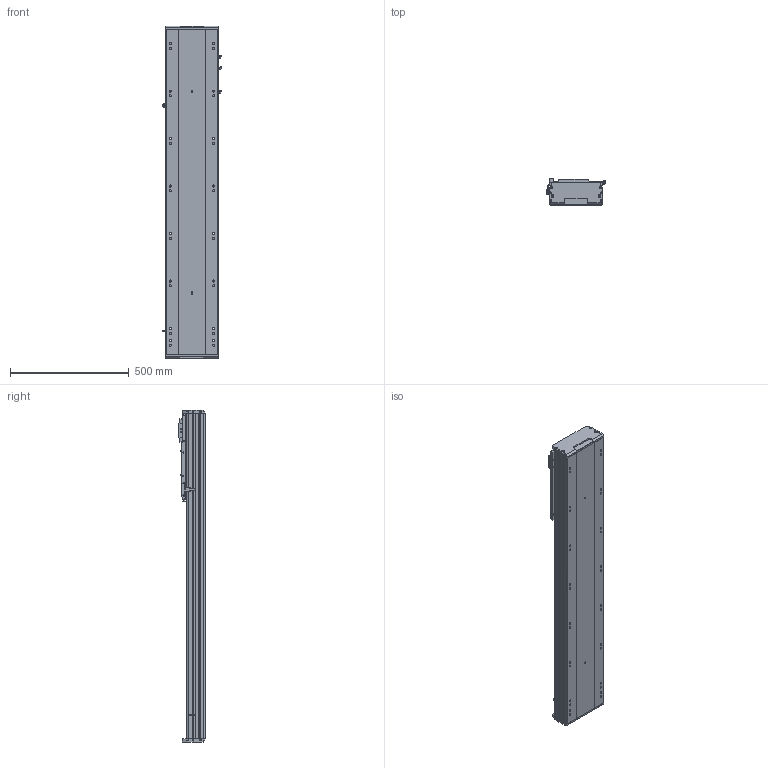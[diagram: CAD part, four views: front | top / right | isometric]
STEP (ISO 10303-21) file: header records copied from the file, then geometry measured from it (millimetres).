
FILE_DESCRIPTION (( 'STEP AP203' ), '1' );
FILE_NAME ('BEH22-A-M2-950-L1-¦Õ22-PCD100-M6-C3.STEP', '2022-06-21T05:35:47', ( 'CXY' ), ( 'BT' ), 'SwSTEP 2.0', 'SolidWorks 2016', '' );
FILE_SCHEMA (( 'CONFIG_CONTROL_DESIGN' ));
Products named in the file (12): PM-T65; BTH22-07-DZ; FS-01-10（10毫米）; FS-25-6.66-M2-H22K6; BEH22-07-PCD100-80-M6; 萇儂階踡輸; FS-02-BTH22; BEH22-04-01_L; BEH22-B-01-XX-2; BEH22-04-F; _G-M6; BEH22-A-M2-950-L1-耳22-PCD100-M6-C3
Assembly tree (18 placements, depth 3):
  BEH22-A-M2-950-L1-耳22-PCD100-M6-C3
    BEH22-B-01-XX-2
    BTH22-07-DZ  x2
    PM-T65  x2
    BEH22-04-01_L
      BEH22-04-F
      萇儂階踡輸
      _G-M6  x3
      FS-02-BTH22
      FS-01-10（10毫米）  x4
      BEH22-07-PCD100-80-M6
      FS-25-6.66-M2-H22K6
Bounding box: 247.7 x 111 x 1398 mm (x, y, z)
Volume: 15676659 mm3; surface area: 1637275.6 mm2
Topology: 21 solids, 21 shells, 1896 faces, 5284 edges, 3402 vertices
Faces by surface type: cylinder 848, plane 756, cone 233, bspline 37, torus 22
Entity records: 445564 total; most frequent: CARTESIAN_POINT 405951, ORIENTED_EDGE 8388, DIRECTION 7582, EDGE_CURVE 4194, AXIS2_PLACEMENT_3D 2780, VERTEX_POINT 2762, LINE 2022, VECTOR 2022
